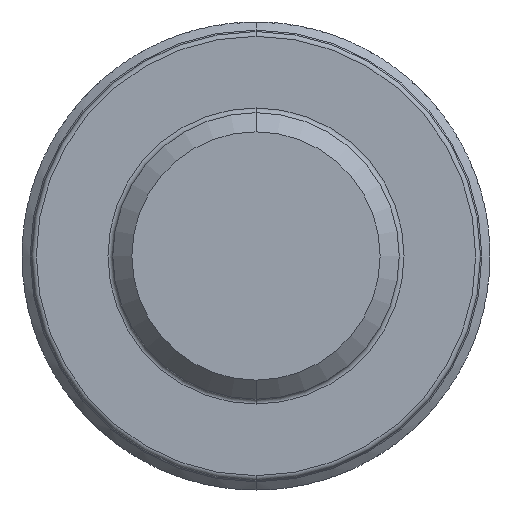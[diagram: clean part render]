
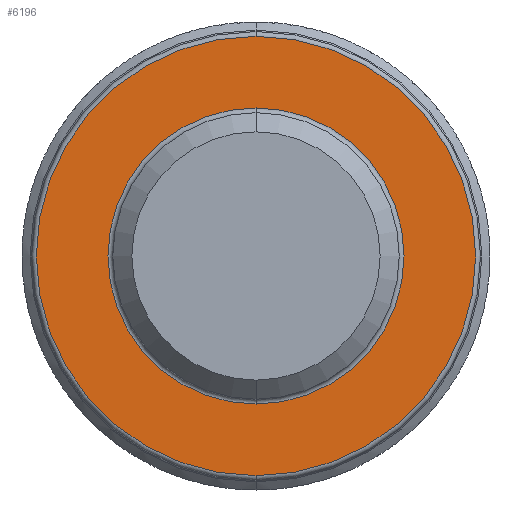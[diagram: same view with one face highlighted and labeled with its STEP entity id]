
A CAD part, front view. The second image highlights one B-rep face of the part: STEP entity #6196.
In plain terms, the highlighted planar face has unit normal (0, -1, 0).
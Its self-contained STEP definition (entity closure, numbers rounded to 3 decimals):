
#450 = CARTESIAN_POINT ( 'NONE',  ( 0., -6., 4.6 ) ) ;
#643 = EDGE_CURVE ( 'NONE', #7501, #8060, #6361, .T. ) ;
#731 = DIRECTION ( 'NONE',  ( 0., 1., 0. ) ) ;
#775 = CARTESIAN_POINT ( 'NONE',  ( 0., -6., 3.1 ) ) ;
#822 = DIRECTION ( 'NONE',  ( 0., 0., -1. ) ) ;
#1256 = DIRECTION ( 'NONE',  ( 0., 0., -1. ) ) ;
#1305 = CARTESIAN_POINT ( 'NONE',  ( 0., -6., 0. ) ) ;
#1479 = DIRECTION ( 'NONE',  ( 0., 0., -1. ) ) ;
#1717 = ORIENTED_EDGE ( 'NONE', *, *, #7889, .T. ) ;
#1808 = DIRECTION ( 'NONE',  ( 0., -1., 0. ) ) ;
#1891 = CARTESIAN_POINT ( 'NONE',  ( 3., -6., 0. ) ) ;
#2662 = ORIENTED_EDGE ( 'NONE', *, *, #8321, .T. ) ;
#2671 = DIRECTION ( 'NONE',  ( 0., -1., 0. ) ) ;
#3340 = CARTESIAN_POINT ( 'NONE',  ( 0., -6., 0. ) ) ;
#3620 = AXIS2_PLACEMENT_3D ( 'NONE', #6651, #4125, #822 ) ;
#3822 = ORIENTED_EDGE ( 'NONE', *, *, #6585, .T. ) ;
#3944 = CARTESIAN_POINT ( 'NONE',  ( 0., -6., -4.6 ) ) ;
#3963 = ORIENTED_EDGE ( 'NONE', *, *, #643, .T. ) ;
#4125 = DIRECTION ( 'NONE',  ( 0., 1., 0. ) ) ;
#4276 = AXIS2_PLACEMENT_3D ( 'NONE', #1305, #731, #1256 ) ;
#4615 = CARTESIAN_POINT ( 'NONE',  ( 0., -6., -3.1 ) ) ;
#4691 = DIRECTION ( 'NONE',  ( 0., -1., 0. ) ) ;
#5482 = AXIS2_PLACEMENT_3D ( 'NONE', #8213, #4691, #5551 ) ;
#5520 = VERTEX_POINT ( 'NONE', #450 ) ;
#5551 = DIRECTION ( 'NONE',  ( 0., 0., -1. ) ) ;
#5885 = DIRECTION ( 'NONE',  ( 0., 0., -1. ) ) ;
#5934 = PLANE ( 'NONE',  #8661 ) ;
#6196 = ADVANCED_FACE ( 'NONE', ( #6485, #6615 ), #5934, .T. ) ;
#6310 = AXIS2_PLACEMENT_3D ( 'NONE', #3340, #2671, #1479 ) ;
#6361 = CIRCLE ( 'NONE', #3620, 3.1 ) ;
#6485 = FACE_BOUND ( 'NONE', #7690, .T. ) ;
#6585 = EDGE_CURVE ( 'NONE', #8758, #5520, #7203, .T. ) ;
#6615 = FACE_OUTER_BOUND ( 'NONE', #7525, .T. ) ;
#6651 = CARTESIAN_POINT ( 'NONE',  ( 0., -6., 0. ) ) ;
#7203 = CIRCLE ( 'NONE', #5482, 4.6 ) ;
#7501 = VERTEX_POINT ( 'NONE', #4615 ) ;
#7525 = EDGE_LOOP ( 'NONE', ( #3822, #2662 ) ) ;
#7690 = EDGE_LOOP ( 'NONE', ( #3963, #1717 ) ) ;
#7876 = CIRCLE ( 'NONE', #6310, 4.6 ) ;
#7889 = EDGE_CURVE ( 'NONE', #8060, #7501, #8449, .T. ) ;
#8060 = VERTEX_POINT ( 'NONE', #775 ) ;
#8213 = CARTESIAN_POINT ( 'NONE',  ( 0., -6., 0. ) ) ;
#8321 = EDGE_CURVE ( 'NONE', #5520, #8758, #7876, .T. ) ;
#8449 = CIRCLE ( 'NONE', #4276, 3.1 ) ;
#8661 = AXIS2_PLACEMENT_3D ( 'NONE', #1891, #1808, #5885 ) ;
#8758 = VERTEX_POINT ( 'NONE', #3944 ) ;
